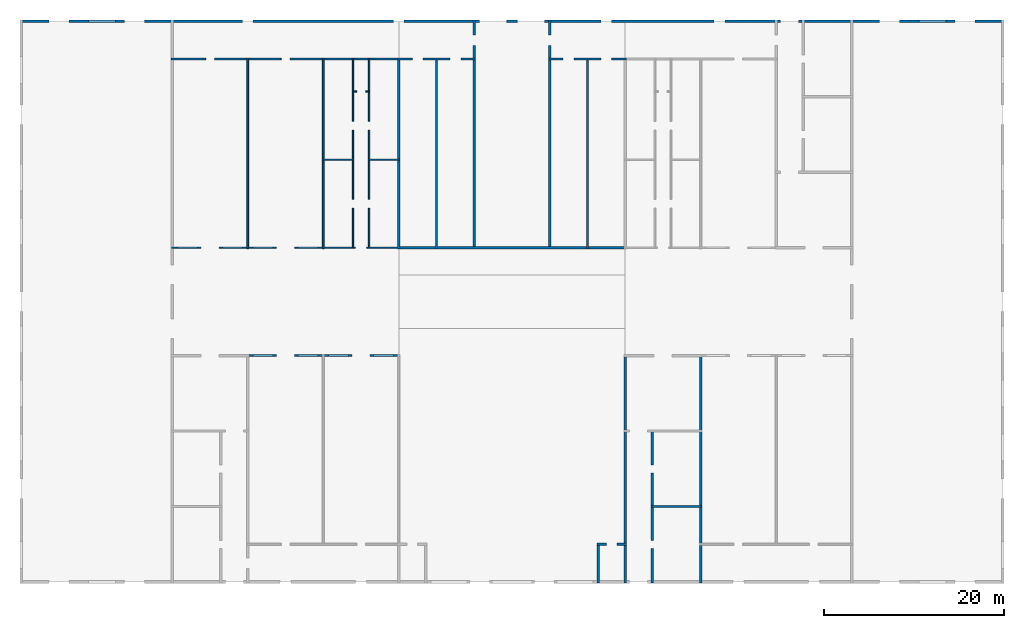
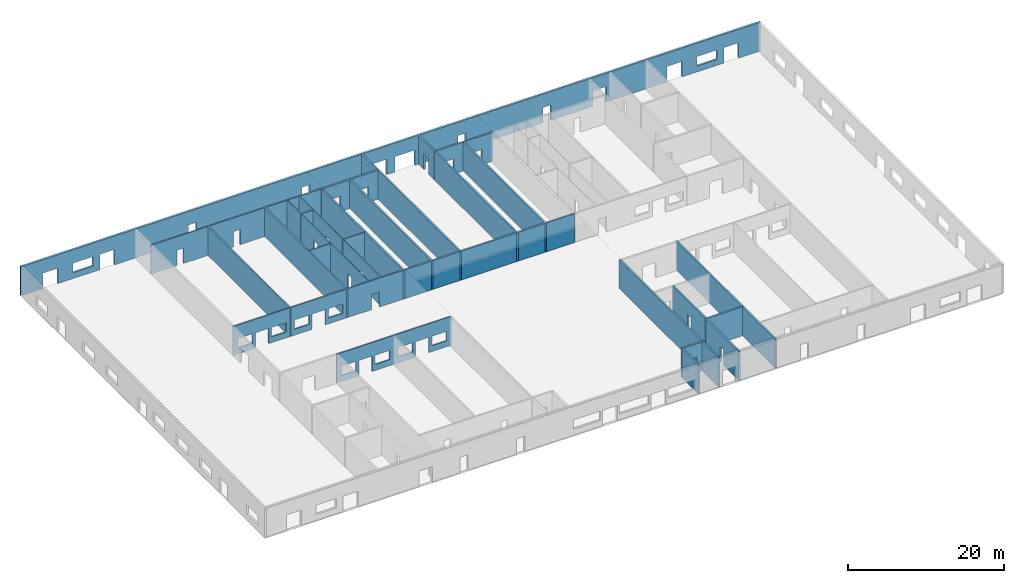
# One storey, part 2 of 3: 25 walls, 53 openings.
"""IFC4 building model written with IfcOpenShell, lengths in millimetres."""

from ifc_helpers import new_model, si_unit, frame, origin_with_axes, place, context, subcontext, project, spatial, indexed_curve, outline, extrude, type_object, element, save


model = new_model("IFC4")

# Units and contexts
model_context = context("Model", 3, precision=1e-05, world=origin_with_axes())
body_context = subcontext(model_context, "Body", "Model", "MODEL_VIEW")
ifc_project = project(units=[si_unit("AREAUNIT", "SQUARE_METRE"), si_unit("VOLUMEUNIT", "CUBIC_METRE"), si_unit("LENGTHUNIT", "METRE", prefix="MILLI")], contexts=[model_context])

# Site, building, storey
site = spatial("IfcSite", under=ifc_project, Name="PIN 00000000 (sample)")
building = spatial("IfcBuilding", under=site, Name="Sample Shopping Mall")
storey = spatial("IfcBuildingStorey", under=building, Name="Ground Floor", Elevation=0.0)

# Wall, openings
wall_type_1 = type_object("IfcWallType", Name="WT-300", PredefinedType="SOLIDWALL")
wall_1_placement = place(None, frame((5250.0, 77849.99999999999, 0.0), z_axis=(0.0, 0.0, 1.0), x_axis=(1.0, 0.0, 0.0)))
wall_1 = element("IfcWall", 1, at=wall_1_placement, inside=storey, type_object=wall_type_1, Name="W29", context=body_context, shape_type="SweptSolid", body=[
    extrude(outline(indexed_curve([(0.0, 0.0), (0.0, 300.0), (109499.99999999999, 300.0), (109499.99999999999, 0.0), (0.0, 0.0)], self_intersect=False)), origin_with_axes(), (0.0, 0.0, 1.0), 4500.0),
])
opening_1_placement = place(wall_1_placement, frame((3250.0, -99.9999999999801, 0.0), z_axis=(0.0, 0.0, 1.0), x_axis=(1.0, 0.0, 0.0)))
element("IfcOpeningElement", 2, at=opening_1_placement, cuts=wall_1, Name="D12-opening", context=body_context, shape_type="SweptSolid", body=[
    extrude(outline(indexed_curve([(0.0, 0.0), (0.0, 500.0), (1100.0, 500.0), (1100.0, 0.0), (0.0, 0.0)], self_intersect=False)), origin_with_axes(), (0.0, 0.0, 1.0), 2400.0),
])
opening_2_placement = place(wall_1_placement, frame((4350.000000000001, -99.9999999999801, 0.0), z_axis=(0.0, 0.0, 1.0), x_axis=(1.0, 0.0, 0.0)))
element("IfcOpeningElement", 3, at=opening_2_placement, cuts=wall_1, Name="-opening", context=body_context, shape_type="SweptSolid", body=[
    extrude(outline(indexed_curve([(0.0, 0.0), (0.0, 500.0), (1100.0, 500.0), (1100.0, 0.0), (0.0, 0.0)], self_intersect=False)), origin_with_axes(), (0.0, 0.0, 1.0), 2400.0),
])
opening_3_placement = place(wall_1_placement, frame((11649.999999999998, -99.9999999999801, 0.0), z_axis=(0.0, 0.0, 1.0), x_axis=(1.0, 0.0, 0.0)))
element("IfcOpeningElement", 4, at=opening_3_placement, cuts=wall_1, Name="D13-opening", context=body_context, shape_type="SweptSolid", body=[
    extrude(outline(indexed_curve([(0.0, 0.0), (0.0, 500.0), (1100.0, 500.0), (1100.0, 0.0), (0.0, 0.0)], self_intersect=False)), origin_with_axes(), (0.0, 0.0, 1.0), 2400.0),
])
opening_4_placement = place(wall_1_placement, frame((12750.0, -99.9999999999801, 0.0), z_axis=(0.0, 0.0, 1.0), x_axis=(1.0, 0.0, 0.0)))
element("IfcOpeningElement", 5, at=opening_4_placement, cuts=wall_1, Name="-opening", context=body_context, shape_type="SweptSolid", body=[
    extrude(outline(indexed_curve([(0.0, 0.0), (0.0, 500.0), (1100.0, 500.0), (1100.0, 0.0), (0.0, 0.0)], self_intersect=False)), origin_with_axes(), (0.0, 0.0, 1.0), 2400.0),
])
opening_5_placement = place(wall_1_placement, frame((95650.0, -99.9999999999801, 0.0), z_axis=(0.0, 0.0, 1.0), x_axis=(1.0, 0.0, 0.0)))
element("IfcOpeningElement", 6, at=opening_5_placement, cuts=wall_1, Name="D21-opening", context=body_context, shape_type="SweptSolid", body=[
    extrude(outline(indexed_curve([(0.0, 0.0), (0.0, 500.0), (1100.0, 500.0), (1100.0, 0.0), (0.0, 0.0)], self_intersect=False)), origin_with_axes(), (0.0, 0.0, 1.0), 2400.0),
])
opening_6_placement = place(wall_1_placement, frame((96750.0, -99.9999999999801, 0.0), z_axis=(0.0, 0.0, 1.0), x_axis=(1.0, 0.0, 0.0)))
element("IfcOpeningElement", 7, at=opening_6_placement, cuts=wall_1, Name="-opening", context=body_context, shape_type="SweptSolid", body=[
    extrude(outline(indexed_curve([(0.0, 0.0), (0.0, 500.0), (1100.0, 500.0), (1100.0, 0.0), (0.0, 0.0)], self_intersect=False)), origin_with_axes(), (0.0, 0.0, 1.0), 2400.0),
])
opening_7_placement = place(wall_1_placement, frame((104050.00000000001, -99.9999999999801, 0.0), z_axis=(0.0, 0.0, 1.0), x_axis=(1.0, 0.0, 0.0)))
element("IfcOpeningElement", 8, at=opening_7_placement, cuts=wall_1, Name="D22-opening", context=body_context, shape_type="SweptSolid", body=[
    extrude(outline(indexed_curve([(0.0, 0.0), (0.0, 500.0), (1100.0, 500.0), (1100.0, 0.0), (0.0, 0.0)], self_intersect=False)), origin_with_axes(), (0.0, 0.0, 1.0), 2400.0),
])
opening_8_placement = place(wall_1_placement, frame((105150.0, -99.9999999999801, 0.0), z_axis=(0.0, 0.0, 1.0), x_axis=(1.0, 0.0, 0.0)))
element("IfcOpeningElement", 9, at=opening_8_placement, cuts=wall_1, Name="-opening", context=body_context, shape_type="SweptSolid", body=[
    extrude(outline(indexed_curve([(0.0, 0.0), (0.0, 500.0), (1100.0, 500.0), (1100.0, 0.0), (0.0, 0.0)], self_intersect=False)), origin_with_axes(), (0.0, 0.0, 1.0), 2400.0),
])
opening_9_placement = place(wall_1_placement, frame((24750.0, -99.9999999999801, 0.0), z_axis=(0.0, 0.0, 1.0), x_axis=(1.0, 0.0, 0.0)))
element("IfcOpeningElement", 10, at=opening_9_placement, cuts=wall_1, Name="D27-opening", context=body_context, shape_type="SweptSolid", body=[
    extrude(outline(indexed_curve([(0.0, 0.0), (0.0, 500.0), (1200.0, 500.0), (1200.0, 0.0), (0.0, 0.0)], self_intersect=False)), origin_with_axes(), (0.0, 0.0, 1.0), 2400.0),
])
opening_10_placement = place(wall_1_placement, frame((41549.99999999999, -99.9999999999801, 0.0), z_axis=(0.0, 0.0, 1.0), x_axis=(1.0, 0.0, 0.0)))
element("IfcOpeningElement", 11, at=opening_10_placement, cuts=wall_1, Name="D28-opening", context=body_context, shape_type="SweptSolid", body=[
    extrude(outline(indexed_curve([(0.0, 0.0), (0.0, 500.0), (1200.0, 500.0), (1200.0, 0.0), (0.0, 0.0)], self_intersect=False)), origin_with_axes(), (0.0, 0.0, 1.0), 2400.0),
])
opening_11_placement = place(wall_1_placement, frame((64650.00000000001, -99.9999999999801, 0.0), z_axis=(0.0, 0.0, 1.0), x_axis=(1.0, 0.0, 0.0)))
element("IfcOpeningElement", 12, at=opening_11_placement, cuts=wall_1, Name="D29-opening", context=body_context, shape_type="SweptSolid", body=[
    extrude(outline(indexed_curve([(0.0, 0.0), (0.0, 500.0), (1200.0, 500.0), (1200.0, 0.0), (0.0, 0.0)], self_intersect=False)), origin_with_axes(), (0.0, 0.0, 1.0), 2400.0),
])
opening_12_placement = place(wall_1_placement, frame((77250.0, -99.9999999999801, 0.0), z_axis=(0.0, 0.0, 1.0), x_axis=(1.0, 0.0, 0.0)))
element("IfcOpeningElement", 13, at=opening_12_placement, cuts=wall_1, Name="D30-opening", context=body_context, shape_type="SweptSolid", body=[
    extrude(outline(indexed_curve([(0.0, 0.0), (0.0, 500.0), (1200.0, 500.0), (1200.0, 0.0), (0.0, 0.0)], self_intersect=False)), origin_with_axes(), (0.0, 0.0, 1.0), 2400.0),
])
opening_13_placement = place(wall_1_placement, frame((51150.0, -99.9999999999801, 0.0), z_axis=(0.0, 0.0, 1.0), x_axis=(1.0, 0.0, 0.0)))
element("IfcOpeningElement", 14, at=opening_13_placement, cuts=wall_1, Name="D62-opening", context=body_context, shape_type="SweptSolid", body=[
    extrude(outline(indexed_curve([(0.0, 0.0), (0.0, 500.0), (1500.0, 500.0), (1500.0, 0.0), (0.0, 0.0)], self_intersect=False)), origin_with_axes(), (0.0, 0.0, 1.0), 2400.0),
])
opening_14_placement = place(wall_1_placement, frame((52650.0, -99.9999999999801, 0.0), z_axis=(0.0, 0.0, 1.0), x_axis=(1.0, 0.0, 0.0)))
element("IfcOpeningElement", 15, at=opening_14_placement, cuts=wall_1, Name="-opening", context=body_context, shape_type="SweptSolid", body=[
    extrude(outline(indexed_curve([(0.0, 0.0), (0.0, 500.0), (1500.0, 500.0), (1500.0, 0.0), (0.0, 0.0)], self_intersect=False)), origin_with_axes(), (0.0, 0.0, 1.0), 2400.0),
])
opening_15_placement = place(wall_1_placement, frame((55350.0, -99.9999999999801, 0.0), z_axis=(0.0, 0.0, 1.0), x_axis=(1.0, 0.0, 0.0)))
element("IfcOpeningElement", 16, at=opening_15_placement, cuts=wall_1, Name="D63-opening", context=body_context, shape_type="SweptSolid", body=[
    extrude(outline(indexed_curve([(0.0, 0.0), (0.0, 500.0), (1500.0, 500.0), (1500.0, 0.0), (0.0, 0.0)], self_intersect=False)), origin_with_axes(), (0.0, 0.0, 1.0), 2400.0),
])
opening_16_placement = place(wall_1_placement, frame((56850.0, -99.9999999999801, 0.0), z_axis=(0.0, 0.0, 1.0), x_axis=(1.0, 0.0, 0.0)))
element("IfcOpeningElement", 17, at=opening_16_placement, cuts=wall_1, Name="-opening", context=body_context, shape_type="SweptSolid", body=[
    extrude(outline(indexed_curve([(0.0, 0.0), (0.0, 500.0), (1500.0, 500.0), (1500.0, 0.0), (0.0, 0.0)], self_intersect=False)), origin_with_axes(), (0.0, 0.0, 1.0), 2400.0),
])
opening_17_placement = place(wall_1_placement, frame((84650.0, -99.9999999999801, 0.0), z_axis=(0.0, 0.0, 1.0), x_axis=(1.0, 0.0, 0.0)))
element("IfcOpeningElement", 18, at=opening_17_placement, cuts=wall_1, Name="D78-opening", context=body_context, shape_type="SweptSolid", body=[
    extrude(outline(indexed_curve([(0.0, 0.0), (0.0, 500.0), (1000.0, 500.0), (1000.0, 0.0), (0.0, 0.0)], self_intersect=False)), origin_with_axes(), (0.0, 0.0, 1.0), 2400.0),
])
opening_18_placement = place(wall_1_placement, frame((85650.0, -99.9999999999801, 0.0), z_axis=(0.0, 0.0, 1.0), x_axis=(1.0, 0.0, 0.0)))
element("IfcOpeningElement", 19, at=opening_18_placement, cuts=wall_1, Name="-opening", context=body_context, shape_type="SweptSolid", body=[
    extrude(outline(indexed_curve([(0.0, 0.0), (0.0, 500.0), (1000.0, 500.0), (1000.0, 0.0), (0.0, 0.0)], self_intersect=False)), origin_with_axes(), (0.0, 0.0, 1.0), 2400.0),
])
opening_19_placement = place(wall_1_placement, frame((7650.0, -99.9999999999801, 900.0), z_axis=(0.0, 0.0, 1.0), x_axis=(1.0, 0.0, 0.0)))
element("IfcOpeningElement", 20, at=opening_19_placement, cuts=wall_1, Name="-opening", context=body_context, shape_type="SweptSolid", body=[
    extrude(outline(indexed_curve([(0.0, 0.0), (0.0, 500.0), (3000.0, 500.0), (3000.0, 0.0), (0.0, 0.0)], self_intersect=False)), origin_with_axes(), (0.0, 0.0, 1.0), 1500.0),
])
opening_20_placement = place(wall_1_placement, frame((100050.00000000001, -99.9999999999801, 900.0), z_axis=(0.0, 0.0, 1.0), x_axis=(1.0, 0.0, 0.0)))
element("IfcOpeningElement", 21, at=opening_20_placement, cuts=wall_1, Name="-opening", context=body_context, shape_type="SweptSolid", body=[
    extrude(outline(indexed_curve([(0.0, 0.0), (0.0, 500.0), (3000.0, 500.0), (3000.0, 0.0), (0.0, 0.0)], self_intersect=False)), origin_with_axes(), (0.0, 0.0, 1.0), 1500.0),
])

wall_type_2 = type_object("IfcWallType", Name="WT-200", PredefinedType="SOLIDWALL")
wall_2_placement = place(None, frame((30500.0, 40699.99999999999, 0.0), z_axis=(0.0, 0.0, 1.0), x_axis=(1.0, 0.0, 0.0)))
wall_2 = element("IfcWall", 22, at=wall_2_placement, inside=storey, type_object=wall_type_2, Name="W10", context=body_context, shape_type="SweptSolid", body=[
    extrude(outline(indexed_curve([(0.0, 0.0), (0.0, 200.0), (16999.999999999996, 200.0), (16999.999999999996, 0.0), (0.0, 0.0)], self_intersect=False)), origin_with_axes(), (0.0, 0.0, 1.0), 4500.0),
])
opening_21_placement = place(wall_2_placement, frame((3299.9999999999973, -100.00000000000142, 0.0), z_axis=(0.0, 0.0, 1.0), x_axis=(1.0, 0.0, 0.0)))
element("IfcOpeningElement", 23, at=opening_21_placement, cuts=wall_2, Name="D37-opening", context=body_context, shape_type="SweptSolid", body=[
    extrude(outline(indexed_curve([(0.0, 0.0), (0.0, 400.0), (1000.0, 400.0), (1000.0, 0.0), (0.0, 0.0)], self_intersect=False)), origin_with_axes(), (0.0, 0.0, 1.0), 2400.0),
])
opening_22_placement = place(wall_2_placement, frame((4300.000000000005, -100.00000000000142, 0.0), z_axis=(0.0, 0.0, 1.0), x_axis=(1.0, 0.0, 0.0)))
element("IfcOpeningElement", 24, at=opening_22_placement, cuts=wall_2, Name="-opening", context=body_context, shape_type="SweptSolid", body=[
    extrude(outline(indexed_curve([(0.0, 0.0), (0.0, 400.0), (1000.0, 400.0), (1000.0, 0.0), (0.0, 0.0)], self_intersect=False)), origin_with_axes(), (0.0, 0.0, 1.0), 2400.0),
])
opening_23_placement = place(wall_2_placement, frame((11700.000000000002, -100.00000000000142, 0.0), z_axis=(0.0, 0.0, 1.0), x_axis=(1.0, 0.0, 0.0)))
element("IfcOpeningElement", 25, at=opening_23_placement, cuts=wall_2, Name="D39-opening", context=body_context, shape_type="SweptSolid", body=[
    extrude(outline(indexed_curve([(0.0, 0.0), (0.0, 400.0), (1000.0, 400.0), (1000.0, 0.0), (0.0, 0.0)], self_intersect=False)), origin_with_axes(), (0.0, 0.0, 1.0), 2400.0),
])
opening_24_placement = place(wall_2_placement, frame((12700.000000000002, -100.00000000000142, 0.0), z_axis=(0.0, 0.0, 1.0), x_axis=(1.0, 0.0, 0.0)))
element("IfcOpeningElement", 26, at=opening_24_placement, cuts=wall_2, Name="-opening", context=body_context, shape_type="SweptSolid", body=[
    extrude(outline(indexed_curve([(0.0, 0.0), (0.0, 400.0), (1000.0, 400.0), (1000.0, 0.0), (0.0, 0.0)], self_intersect=False)), origin_with_axes(), (0.0, 0.0, 1.0), 2400.0),
])
opening_25_placement = place(wall_2_placement, frame((700.0000000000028, -100.00000000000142, 900.0), z_axis=(0.0, 0.0, 1.0), x_axis=(1.0, 0.0, 0.0)))
element("IfcOpeningElement", 27, at=opening_25_placement, cuts=wall_2, Name="-opening", context=body_context, shape_type="SweptSolid", body=[
    extrude(outline(indexed_curve([(0.0, 0.0), (0.0, 400.0), (2200.0, 400.0), (2200.0, 0.0), (0.0, 0.0)], self_intersect=False)), origin_with_axes(), (0.0, 0.0, 1.0), 1500.0),
])
opening_26_placement = place(wall_2_placement, frame((5700.000000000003, -100.00000000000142, 900.0), z_axis=(0.0, 0.0, 1.0), x_axis=(1.0, 0.0, 0.0)))
element("IfcOpeningElement", 28, at=opening_26_placement, cuts=wall_2, Name="-opening", context=body_context, shape_type="SweptSolid", body=[
    extrude(outline(indexed_curve([(0.0, 0.0), (0.0, 400.0), (2200.0, 400.0), (2200.0, 0.0), (0.0, 0.0)], self_intersect=False)), origin_with_axes(), (0.0, 0.0, 1.0), 1500.0),
])
opening_27_placement = place(wall_2_placement, frame((9100.000000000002, -100.00000000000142, 900.0), z_axis=(0.0, 0.0, 1.0), x_axis=(1.0, 0.0, 0.0)))
element("IfcOpeningElement", 29, at=opening_27_placement, cuts=wall_2, Name="-opening", context=body_context, shape_type="SweptSolid", body=[
    extrude(outline(indexed_curve([(0.0, 0.0), (0.0, 400.0), (2200.0, 400.0), (2200.0, 0.0), (0.0, 0.0)], self_intersect=False)), origin_with_axes(), (0.0, 0.0, 1.0), 1500.0),
])
opening_28_placement = place(wall_2_placement, frame((14100.000000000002, -100.00000000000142, 900.0), z_axis=(0.0, 0.0, 1.0), x_axis=(1.0, 0.0, 0.0)))
element("IfcOpeningElement", 30, at=opening_28_placement, cuts=wall_2, Name="-opening", context=body_context, shape_type="SweptSolid", body=[
    extrude(outline(indexed_curve([(0.0, 0.0), (0.0, 400.0), (2200.0, 400.0), (2200.0, 0.0), (0.0, 0.0)], self_intersect=False)), origin_with_axes(), (0.0, 0.0, 1.0), 1500.0),
])

wall_3_placement = place(None, frame((22099.999999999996, 52699.99999999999, 0.0), z_axis=(0.0, 0.0, 1.0), x_axis=(1.0, 0.0, 0.0)))
wall_3 = element("IfcWall", 31, at=wall_3_placement, inside=storey, type_object=wall_type_2, Name="W13", context=body_context, shape_type="SweptSolid", body=[
    extrude(outline(indexed_curve([(0.0, 0.0), (0.0, 200.0), (25399.999999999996, 200.0), (25399.999999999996, 0.0), (0.0, 0.0)], self_intersect=False)), origin_with_axes(), (0.0, 0.0, 1.0), 4500.0),
])
opening_29_placement = place(wall_3_placement, frame((3300.0000000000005, -100.00000000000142, 0.0), z_axis=(0.0, 0.0, 1.0), x_axis=(1.0, 0.0, 0.0)))
element("IfcOpeningElement", 32, at=opening_29_placement, cuts=wall_3, Name="D50-opening", context=body_context, shape_type="SweptSolid", body=[
    extrude(outline(indexed_curve([(0.0, 0.0), (0.0, 400.0), (1000.0, 400.0), (1000.0, 0.0), (0.0, 0.0)], self_intersect=False)), origin_with_axes(), (0.0, 0.0, 1.0), 2400.0),
])
opening_30_placement = place(wall_3_placement, frame((4300.000000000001, -100.00000000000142, 0.0), z_axis=(0.0, 0.0, 1.0), x_axis=(1.0, 0.0, 0.0)))
element("IfcOpeningElement", 33, at=opening_30_placement, cuts=wall_3, Name="-opening", context=body_context, shape_type="SweptSolid", body=[
    extrude(outline(indexed_curve([(0.0, 0.0), (0.0, 400.0), (1000.0, 400.0), (1000.0, 0.0), (0.0, 0.0)], self_intersect=False)), origin_with_axes(), (0.0, 0.0, 1.0), 2400.0),
])
opening_31_placement = place(wall_3_placement, frame((11699.999999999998, -100.00000000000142, 0.0), z_axis=(0.0, 0.0, 1.0), x_axis=(1.0, 0.0, 0.0)))
element("IfcOpeningElement", 34, at=opening_31_placement, cuts=wall_3, Name="D52-opening", context=body_context, shape_type="SweptSolid", body=[
    extrude(outline(indexed_curve([(0.0, 0.0), (0.0, 400.0), (1000.0, 400.0), (1000.0, 0.0), (0.0, 0.0)], self_intersect=False)), origin_with_axes(), (0.0, 0.0, 1.0), 2400.0),
])
opening_32_placement = place(wall_3_placement, frame((12700.000000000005, -100.00000000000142, 0.0), z_axis=(0.0, 0.0, 1.0), x_axis=(1.0, 0.0, 0.0)))
element("IfcOpeningElement", 35, at=opening_32_placement, cuts=wall_3, Name="-opening", context=body_context, shape_type="SweptSolid", body=[
    extrude(outline(indexed_curve([(0.0, 0.0), (0.0, 400.0), (1000.0, 400.0), (1000.0, 0.0), (0.0, 0.0)], self_intersect=False)), origin_with_axes(), (0.0, 0.0, 1.0), 2400.0),
])
opening_33_placement = place(wall_3_placement, frame((20499.999999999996, -100.00000000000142, 0.0), z_axis=(0.0, 0.0, 1.0), x_axis=(1.0, 0.0, 0.0)))
element("IfcOpeningElement", 36, at=opening_33_placement, cuts=wall_3, Name="D54-opening", context=body_context, shape_type="SweptSolid", body=[
    extrude(outline(indexed_curve([(0.0, 0.0), (0.0, 400.0), (1200.0, 400.0), (1200.0, 0.0), (0.0, 0.0)], self_intersect=False)), origin_with_axes(), (0.0, 0.0, 1.0), 2400.0),
])
opening_34_placement = place(wall_3_placement, frame((700.0000000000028, -100.00000000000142, 900.0), z_axis=(0.0, 0.0, 1.0), x_axis=(1.0, 0.0, 0.0)))
element("IfcOpeningElement", 37, at=opening_34_placement, cuts=wall_3, Name="-opening", context=body_context, shape_type="SweptSolid", body=[
    extrude(outline(indexed_curve([(0.0, 0.0), (0.0, 400.0), (2200.0, 400.0), (2200.0, 0.0), (0.0, 0.0)], self_intersect=False)), origin_with_axes(), (0.0, 0.0, 1.0), 1500.0),
])
opening_35_placement = place(wall_3_placement, frame((5699.999999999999, -100.00000000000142, 900.0), z_axis=(0.0, 0.0, 1.0), x_axis=(1.0, 0.0, 0.0)))
element("IfcOpeningElement", 38, at=opening_35_placement, cuts=wall_3, Name="-opening", context=body_context, shape_type="SweptSolid", body=[
    extrude(outline(indexed_curve([(0.0, 0.0), (0.0, 400.0), (2200.0, 400.0), (2200.0, 0.0), (0.0, 0.0)], self_intersect=False)), origin_with_axes(), (0.0, 0.0, 1.0), 1500.0),
])
opening_36_placement = place(wall_3_placement, frame((9100.000000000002, -100.00000000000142, 900.0), z_axis=(0.0, 0.0, 1.0), x_axis=(1.0, 0.0, 0.0)))
element("IfcOpeningElement", 39, at=opening_36_placement, cuts=wall_3, Name="-opening", context=body_context, shape_type="SweptSolid", body=[
    extrude(outline(indexed_curve([(0.0, 0.0), (0.0, 400.0), (2200.0, 400.0), (2200.0, 0.0), (0.0, 0.0)], self_intersect=False)), origin_with_axes(), (0.0, 0.0, 1.0), 1500.0),
])
opening_37_placement = place(wall_3_placement, frame((14100.000000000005, -100.00000000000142, 900.0), z_axis=(0.0, 0.0, 1.0), x_axis=(1.0, 0.0, 0.0)))
element("IfcOpeningElement", 40, at=opening_37_placement, cuts=wall_3, Name="-opening", context=body_context, shape_type="SweptSolid", body=[
    extrude(outline(indexed_curve([(0.0, 0.0), (0.0, 400.0), (2200.0, 400.0), (2200.0, 0.0), (0.0, 0.0)], self_intersect=False)), origin_with_axes(), (0.0, 0.0, 1.0), 1500.0),
])

wall_4_placement = place(None, frame((22099.999999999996, 73700.0, 0.0), z_axis=(0.0, 0.0, 1.0), x_axis=(1.0, 0.0, 0.0)))
wall_4 = element("IfcWall", 41, at=wall_4_placement, inside=storey, type_object=wall_type_2, Name="W25", context=body_context, shape_type="SweptSolid", body=[
    extrude(outline(indexed_curve([(0.0, 0.0), (0.0, 200.0), (25399.999999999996, 200.0), (25399.999999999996, 0.0), (0.0, 0.0)], self_intersect=False)), origin_with_axes(), (0.0, 0.0, 1.0), 4500.0),
])
opening_38_placement = place(wall_4_placement, frame((3800.0000000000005, -99.99999999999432, 0.0), z_axis=(0.0, 0.0, 1.0), x_axis=(1.0, 0.0, 0.0)))
element("IfcOpeningElement", 42, at=opening_38_placement, cuts=wall_4, Name="-opening", context=body_context, shape_type="SweptSolid", body=[
    extrude(outline(indexed_curve([(0.0, 0.0), (0.0, 400.0), (1000.0, 400.0), (1000.0, 0.0), (0.0, 0.0)], self_intersect=False)), origin_with_axes(), (0.0, 0.0, 1.0), 2400.0),
])
opening_39_placement = place(wall_4_placement, frame((12200.000000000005, -99.99999999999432, 0.0), z_axis=(0.0, 0.0, 1.0), x_axis=(1.0, 0.0, 0.0)))
element("IfcOpeningElement", 43, at=opening_39_placement, cuts=wall_4, Name="-opening", context=body_context, shape_type="SweptSolid", body=[
    extrude(outline(indexed_curve([(0.0, 0.0), (0.0, 400.0), (1000.0, 400.0), (1000.0, 0.0), (0.0, 0.0)], self_intersect=False)), origin_with_axes(), (0.0, 0.0, 1.0), 2400.0),
])

# Walls
for number, where, z_axis, x_axis, name in (
    (44, (30700.000000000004, 52699.99999999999, 0.0), (0.0, 0.0, 1.0), (6.123233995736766e-17, 1.0, 0.0), "W34"),
    (45, (39100.0, 52699.99999999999, 0.0), (0.0, 0.0, 1.0), (6.123233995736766e-17, 1.0, 0.0), "W36"),
):
    element("IfcWall", number, at=place(None, frame(where, z_axis=z_axis, x_axis=x_axis)), inside=storey, type_object=wall_type_2, Name=name, context=body_context, shape_type="SweptSolid", body=[
        extrude(outline(indexed_curve([(0.0, 0.0), (0.0, 200.0), (21200.0, 200.0), (21200.0, 0.0), (0.0, 0.0)], self_intersect=False)), origin_with_axes(), (0.0, 0.0, 1.0), 4500.0),
    ])

# Wall, opening
wall_type_3 = type_object("IfcWallType", Name="WT-250", PredefinedType="SOLIDWALL")
wall_5_placement = place(None, frame((69475.0, 19675.0, 0.0), z_axis=(0.0, 0.0, 1.0), x_axis=(1.0, 0.0, 0.0)))
wall_5 = element("IfcWall", 46, at=wall_5_placement, inside=storey, type_object=wall_type_3, Name="W3", context=body_context, shape_type="SweptSolid", body=[
    extrude(outline(indexed_curve([(0.0, 0.0), (0.0, 250.0), (3250.0, 250.0), (3250.0, 0.0), (0.0, 0.0)], self_intersect=False)), origin_with_axes(), (0.0, 0.0, 1.0), 4500.0),
])
opening_40_placement = place(wall_5_placement, frame((1024.9999999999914, -100.00000000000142, 0.0), z_axis=(0.0, 0.0, 1.0), x_axis=(1.0, 0.0, 0.0)))
element("IfcOpeningElement", 47, at=opening_40_placement, cuts=wall_5, Name="D02-opening", context=body_context, shape_type="SweptSolid", body=[
    extrude(outline(indexed_curve([(0.0, 0.0), (0.0, 450.0), (1200.0, 450.0), (1200.0, 0.0), (0.0, 0.0)], self_intersect=False)), origin_with_axes(), (0.0, 0.0, 1.0), 2400.0),
])

# Walls
wall_6_placement = place(None, frame((75475.0, 23875.0, 0.0), z_axis=(0.0, 0.0, 1.0), x_axis=(1.0, 0.0, 0.0)))
element("IfcWall", 48, at=wall_6_placement, inside=storey, type_object=wall_type_3, Name="W6", context=body_context, shape_type="SweptSolid", body=[
    extrude(outline(indexed_curve([(0.0, 0.0), (0.0, 250.0), (5650.0000000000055, 250.0), (5650.0000000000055, 0.0), (0.0, 0.0)], self_intersect=False)), origin_with_axes(), (0.0, 0.0, 1.0), 4500.0),
])
wall_7_placement = place(None, frame((47275.0, 52674.99999999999, 0.0), z_axis=(0.0, 0.0, 1.0), x_axis=(1.0, 0.0, 0.0)))
element("IfcWall", 49, at=wall_7_placement, inside=storey, type_object=wall_type_3, Name="W14", context=body_context, shape_type="SweptSolid", body=[
    extrude(outline(indexed_curve([(0.0, 0.0), (0.0, 250.0), (25449.999999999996, 250.0), (25449.999999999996, 0.0), (0.0, 0.0)], self_intersect=False)), origin_with_axes(), (0.0, 0.0, 1.0), 4500.0),
])

# Wall, openings
wall_8_placement = place(None, frame((47275.0, 73675.0, 0.0), z_axis=(0.0, 0.0, 1.0), x_axis=(1.0, 0.0, 0.0)))
wall_8 = element("IfcWall", 50, at=wall_8_placement, inside=storey, type_object=wall_type_3, Name="W26", context=body_context, shape_type="SweptSolid", body=[
    extrude(outline(indexed_curve([(0.0, 0.0), (0.0, 250.0), (8649.999999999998, 250.0), (8649.999999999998, 0.0), (0.0, 0.0)], self_intersect=False)), origin_with_axes(), (0.0, 0.0, 1.0), 4500.0),
])
opening_41_placement = place(wall_8_placement, frame((1625.0, -99.99999999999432, 0.0), z_axis=(0.0, 0.0, 1.0), x_axis=(1.0, 0.0, 0.0)))
element("IfcOpeningElement", 51, at=opening_41_placement, cuts=wall_8, Name="-opening", context=body_context, shape_type="SweptSolid", body=[
    extrude(outline(indexed_curve([(0.0, 0.0), (0.0, 450.0), (1200.0, 450.0), (1200.0, 0.0), (0.0, 0.0)], self_intersect=False)), origin_with_axes(), (0.0, 0.0, 1.0), 2400.0),
])
opening_42_placement = place(wall_8_placement, frame((5825.000000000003, -99.99999999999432, 0.0), z_axis=(0.0, 0.0, 1.0), x_axis=(1.0, 0.0, 0.0)))
element("IfcOpeningElement", 52, at=opening_42_placement, cuts=wall_8, Name="-opening", context=body_context, shape_type="SweptSolid", body=[
    extrude(outline(indexed_curve([(0.0, 0.0), (0.0, 450.0), (1200.0, 450.0), (1200.0, 0.0), (0.0, 0.0)], self_intersect=False)), origin_with_axes(), (0.0, 0.0, 1.0), 2400.0),
])

wall_9_placement = place(None, frame((64075.0, 73675.0, 0.0), z_axis=(0.0, 0.0, 1.0), x_axis=(1.0, 0.0, 0.0)))
wall_9 = element("IfcWall", 53, at=wall_9_placement, inside=storey, type_object=wall_type_3, Name="W27", context=body_context, shape_type="SweptSolid", body=[
    extrude(outline(indexed_curve([(0.0, 0.0), (0.0, 250.0), (8649.99999999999, 250.0), (8649.99999999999, 0.0), (0.0, 0.0)], self_intersect=False)), origin_with_axes(), (0.0, 0.0, 1.0), 4500.0),
])
opening_43_placement = place(wall_9_placement, frame((1625.0, -99.99999999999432, 0.0), z_axis=(0.0, 0.0, 1.0), x_axis=(1.0, 0.0, 0.0)))
element("IfcOpeningElement", 54, at=opening_43_placement, cuts=wall_9, Name="-opening", context=body_context, shape_type="SweptSolid", body=[
    extrude(outline(indexed_curve([(0.0, 0.0), (0.0, 450.0), (1200.0, 450.0), (1200.0, 0.0), (0.0, 0.0)], self_intersect=False)), origin_with_axes(), (0.0, 0.0, 1.0), 2400.0),
])
opening_44_placement = place(wall_9_placement, frame((5825.000000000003, -99.99999999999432, 0.0), z_axis=(0.0, 0.0, 1.0), x_axis=(1.0, 0.0, 0.0)))
element("IfcOpeningElement", 55, at=opening_44_placement, cuts=wall_9, Name="-opening", context=body_context, shape_type="SweptSolid", body=[
    extrude(outline(indexed_curve([(0.0, 0.0), (0.0, 450.0), (1200.0, 450.0), (1200.0, 0.0), (0.0, 0.0)], self_intersect=False)), origin_with_axes(), (0.0, 0.0, 1.0), 2400.0),
])

# Walls
for number, where, z_axis, x_axis, name in (
    (56, (47525.0, 52674.99999999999, 0.0), (0.0, 0.0, 1.0), (6.123233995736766e-17, 1.0, 0.0), "W41"),
    (57, (51725.0, 52674.99999999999, 0.0), (0.0, 0.0, 1.0), (6.123233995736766e-17, 1.0, 0.0), "W43"),
):
    element("IfcWall", number, at=place(None, frame(where, z_axis=z_axis, x_axis=x_axis)), inside=storey, type_object=wall_type_3, Name=name, context=body_context, shape_type="SweptSolid", body=[
        extrude(outline(indexed_curve([(0.0, 0.0), (0.0, 250.0), (21250.0, 250.0), (21250.0, 0.0), (0.0, 0.0)], self_intersect=False)), origin_with_axes(), (0.0, 0.0, 1.0), 4500.0),
    ])

# Wall, opening
wall_10_placement = place(None, frame((55924.99999999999, 52674.99999999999, 0.0), z_axis=(0.0, 0.0, 1.0), x_axis=(6.123233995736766e-17, 1.0, 0.0)))
wall_10 = element("IfcWall", 58, at=wall_10_placement, inside=storey, type_object=wall_type_3, Name="W44", context=body_context, shape_type="SweptSolid", body=[
    extrude(outline(indexed_curve([(0.0, 0.0), (0.0, 250.0), (25450.000000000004, 250.0), (25450.000000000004, 0.0), (0.0, 0.0)], self_intersect=False)), origin_with_axes(), (0.0, 0.0, 1.0), 4500.0),
])
opening_45_placement = place(wall_10_placement, frame((22625.0, -99.99999999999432, 0.0), z_axis=(0.0, 0.0, 1.0), x_axis=(1.0, 0.0, 0.0)))
element("IfcOpeningElement", 59, at=opening_45_placement, cuts=wall_10, Name="-opening", context=body_context, shape_type="SweptSolid", body=[
    extrude(outline(indexed_curve([(0.0, 0.0), (0.0, 450.0), (1200.0, 450.0), (1200.0, 0.0), (0.0, 0.0)], self_intersect=False)), origin_with_axes(), (0.0, 0.0, 1.0), 2400.0),
])

wall_11_placement = place(None, frame((64325.0, 52674.99999999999, 0.0), z_axis=(0.0, 0.0, 1.0), x_axis=(6.123233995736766e-17, 1.0, 0.0)))
wall_11 = element("IfcWall", 60, at=wall_11_placement, inside=storey, type_object=wall_type_3, Name="W45", context=body_context, shape_type="SweptSolid", body=[
    extrude(outline(indexed_curve([(0.0, 0.0), (0.0, 250.0), (25450.000000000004, 250.0), (25450.000000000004, 0.0), (0.0, 0.0)], self_intersect=False)), origin_with_axes(), (0.0, 0.0, 1.0), 4500.0),
])
opening_46_placement = place(wall_11_placement, frame((22624.999999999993, -99.99999999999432, 0.0), z_axis=(0.0, 0.0, 1.0), x_axis=(1.0, 0.0, 0.0)))
element("IfcOpeningElement", 61, at=opening_46_placement, cuts=wall_11, Name="-opening", context=body_context, shape_type="SweptSolid", body=[
    extrude(outline(indexed_curve([(0.0, 0.0), (0.0, 450.0), (1200.0, 450.0), (1200.0, 0.0), (0.0, 0.0)], self_intersect=False)), origin_with_axes(), (0.0, 0.0, 1.0), 2400.0),
])

# Walls
wall_12_placement = place(None, frame((68525.0, 52674.99999999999, 0.0), z_axis=(0.0, 0.0, 1.0), x_axis=(6.123233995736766e-17, 1.0, 0.0)))
element("IfcWall", 62, at=wall_12_placement, inside=storey, type_object=wall_type_3, Name="W46", context=body_context, shape_type="SweptSolid", body=[
    extrude(outline(indexed_curve([(0.0, 0.0), (0.0, 250.0), (21250.0, 250.0), (21250.0, 0.0), (0.0, 0.0)], self_intersect=False)), origin_with_axes(), (0.0, 0.0, 1.0), 4500.0),
])
wall_13_placement = place(None, frame((69725.0, 15475.0, 0.0), z_axis=(0.0, 0.0, 1.0), x_axis=(6.123233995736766e-17, 1.0, 0.0)))
element("IfcWall", 63, at=wall_13_placement, inside=storey, type_object=wall_type_3, Name="W47", context=body_context, shape_type="SweptSolid", body=[
    extrude(outline(indexed_curve([(0.0, 0.0), (0.0, 250.0), (4450.000000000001, 250.0), (4450.000000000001, 0.0), (0.0, 0.0)], self_intersect=False)), origin_with_axes(), (0.0, 0.0, 1.0), 4500.0),
])
wall_14_placement = place(None, frame((72725.0, 15475.0, 0.0), z_axis=(0.0, 0.0, 1.0), x_axis=(6.123233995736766e-17, 1.0, 0.0)))
element("IfcWall", 64, at=wall_14_placement, inside=storey, type_object=wall_type_3, Name="W48", context=body_context, shape_type="SweptSolid", body=[
    extrude(outline(indexed_curve([(0.0, 0.0), (0.0, 250.0), (25449.999999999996, 250.0), (25449.999999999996, 0.0), (0.0, 0.0)], self_intersect=False)), origin_with_axes(), (0.0, 0.0, 1.0), 4500.0),
])

# Wall, openings
wall_15_placement = place(None, frame((75725.0, 15475.0, 0.0), z_axis=(0.0, 0.0, 1.0), x_axis=(6.123233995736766e-17, 1.0, 0.0)))
wall_15 = element("IfcWall", 65, at=wall_15_placement, inside=storey, type_object=wall_type_3, Name="W50", context=body_context, shape_type="SweptSolid", body=[
    extrude(outline(indexed_curve([(0.0, 0.0), (0.0, 250.0), (17049.999999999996, 250.0), (17049.999999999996, 0.0), (0.0, 0.0)], self_intersect=False)), origin_with_axes(), (0.0, 0.0, 1.0), 4500.0),
])
opening_47_placement = place(wall_15_placement, frame((12274.999999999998, -99.9999999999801, 0.0), z_axis=(0.0, 0.0, 1.0), x_axis=(1.0, 0.0, 0.0)))
element("IfcOpeningElement", 66, at=opening_47_placement, cuts=wall_15, Name="-opening", context=body_context, shape_type="SweptSolid", body=[
    extrude(outline(indexed_curve([(0.0, 0.0), (0.0, 450.0), (900.0, 450.0), (900.0, 0.0), (0.0, 0.0)], self_intersect=False)), origin_with_axes(), (0.0, 0.0, 1.0), 2400.0),
])
opening_48_placement = place(wall_15_placement, frame((3875.0, -99.9999999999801, 0.0), z_axis=(0.0, 0.0, 1.0), x_axis=(1.0, 0.0, 0.0)))
element("IfcOpeningElement", 67, at=opening_48_placement, cuts=wall_15, Name="-opening", context=body_context, shape_type="SweptSolid", body=[
    extrude(outline(indexed_curve([(0.0, 0.0), (0.0, 450.0), (900.0, 450.0), (900.0, 0.0), (0.0, 0.0)], self_intersect=False)), origin_with_axes(), (0.0, 0.0, 1.0), 2400.0),
])

# Walls
wall_16_placement = place(None, frame((81125.0, 15475.0, 0.0), z_axis=(0.0, 0.0, 1.0), x_axis=(6.123233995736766e-17, 1.0, 0.0)))
element("IfcWall", 68, at=wall_16_placement, inside=storey, type_object=wall_type_3, Name="W53", context=body_context, shape_type="SweptSolid", body=[
    extrude(outline(indexed_curve([(0.0, 0.0), (0.0, 250.0), (25449.999999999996, 250.0), (25449.999999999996, 0.0), (0.0, 0.0)], self_intersect=False)), origin_with_axes(), (0.0, 0.0, 1.0), 4500.0),
])
wall_type_4 = type_object("IfcWallType", Name="WT-150", PredefinedType="SOLIDWALL")
for number, where, z_axis, x_axis, name in (
    (69, (38924.99999999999, 62525.0, 0.0), (0.0, 0.0, 1.0), (1.0, 0.0, 0.0), "W18"),
    (70, (44025.0, 62525.0, 0.0), (0.0, 0.0, 1.0), (1.0, 0.0, 0.0), "W19"),
):
    element("IfcWall", number, at=place(None, frame(where, z_axis=z_axis, x_axis=x_axis)), inside=storey, type_object=wall_type_4, Name=name, context=body_context, shape_type="SweptSolid", body=[
        extrude(outline(indexed_curve([(0.0, 0.0), (0.0, 150.0), (3449.999999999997, 150.0), (3449.999999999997, 0.0), (0.0, 0.0)], self_intersect=False)), origin_with_axes(), (0.0, 0.0, 1.0), 4500.0),
    ])

# Wall, opening
wall_17_placement = place(None, frame((42224.99999999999, 70125.0, 0.0), z_axis=(0.0, 0.0, 1.0), x_axis=(1.0, 0.0, 0.0)))
wall_17 = element("IfcWall", 71, at=wall_17_placement, inside=storey, type_object=wall_type_4, Name="W23", context=body_context, shape_type="SweptSolid", body=[
    extrude(outline(indexed_curve([(0.0, 0.0), (0.0, 150.0), (1950.000000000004, 150.0), (1950.000000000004, 0.0), (0.0, 0.0)], self_intersect=False)), origin_with_axes(), (0.0, 0.0, 1.0), 4500.0),
])
opening_49_placement = place(wall_17_placement, frame((475.0000000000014, -99.99999999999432, 0.0), z_axis=(0.0, 0.0, 1.0), x_axis=(1.0, 0.0, 0.0)))
element("IfcOpeningElement", 72, at=opening_49_placement, cuts=wall_17, Name="-opening", context=body_context, shape_type="SweptSolid", body=[
    extrude(outline(indexed_curve([(0.0, 0.0), (0.0, 349.99999999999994), (1000.0, 349.99999999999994), (1000.0, 0.0), (0.0, 0.0)], self_intersect=False)), origin_with_axes(), (0.0, 0.0, 1.0), 2400.0),
])

# Wall, openings
wall_18_placement = place(None, frame((42375.0, 52724.99999999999, 0.0), z_axis=(0.0, 0.0, 1.0), x_axis=(6.123233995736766e-17, 1.0, 0.0)))
wall_18 = element("IfcWall", 73, at=wall_18_placement, inside=storey, type_object=wall_type_4, Name="W37", context=body_context, shape_type="SweptSolid", body=[
    extrude(outline(indexed_curve([(0.0, 0.0), (0.0, 150.0), (21149.999999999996, 150.0), (21149.999999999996, 0.0), (0.0, 0.0)], self_intersect=False)), origin_with_axes(), (0.0, 0.0, 1.0), 4500.0),
])
opening_50_placement = place(wall_18_placement, frame((4475.000000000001, -99.99999999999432, 0.0), z_axis=(0.0, 0.0, 1.0), x_axis=(1.0, 0.0, 0.0)))
element("IfcOpeningElement", 74, at=opening_50_placement, cuts=wall_18, Name="-opening", context=body_context, shape_type="SweptSolid", body=[
    extrude(outline(indexed_curve([(0.0, 0.0), (0.0, 349.99999999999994), (1000.0, 349.99999999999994), (1000.0, 0.0), (0.0, 0.0)], self_intersect=False)), origin_with_axes(), (0.0, 0.0, 1.0), 2400.0),
])
opening_51_placement = place(wall_18_placement, frame((13174.999999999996, -99.99999999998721, 0.0), z_axis=(0.0, 0.0, 1.0), x_axis=(1.0, 0.0, 0.0)))
element("IfcOpeningElement", 75, at=opening_51_placement, cuts=wall_18, Name="-opening", context=body_context, shape_type="SweptSolid", body=[
    extrude(outline(indexed_curve([(0.0, 0.0), (0.0, 349.99999999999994), (1000.0, 349.99999999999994), (1000.0, 0.0), (0.0, 0.0)], self_intersect=False)), origin_with_axes(), (0.0, 0.0, 1.0), 2400.0),
])

wall_19_placement = place(None, frame((44175.0, 52724.99999999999, 0.0), z_axis=(0.0, 0.0, 1.0), x_axis=(6.123233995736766e-17, 1.0, 0.0)))
wall_19 = element("IfcWall", 76, at=wall_19_placement, inside=storey, type_object=wall_type_4, Name="W38", context=body_context, shape_type="SweptSolid", body=[
    extrude(outline(indexed_curve([(0.0, 0.0), (0.0, 150.0), (21149.999999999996, 150.0), (21149.999999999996, 0.0), (0.0, 0.0)], self_intersect=False)), origin_with_axes(), (0.0, 0.0, 1.0), 4500.0),
])
opening_52_placement = place(wall_19_placement, frame((4475.000000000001, -99.99999999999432, 0.0), z_axis=(0.0, 0.0, 1.0), x_axis=(1.0, 0.0, 0.0)))
element("IfcOpeningElement", 77, at=opening_52_placement, cuts=wall_19, Name="-opening", context=body_context, shape_type="SweptSolid", body=[
    extrude(outline(indexed_curve([(0.0, 0.0), (0.0, 349.99999999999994), (1000.0, 349.99999999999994), (1000.0, 0.0), (0.0, 0.0)], self_intersect=False)), origin_with_axes(), (0.0, 0.0, 1.0), 2400.0),
])
opening_53_placement = place(wall_19_placement, frame((13174.999999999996, -99.99999999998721, 0.0), z_axis=(0.0, 0.0, 1.0), x_axis=(1.0, 0.0, 0.0)))
element("IfcOpeningElement", 78, at=opening_53_placement, cuts=wall_19, Name="-opening", context=body_context, shape_type="SweptSolid", body=[
    extrude(outline(indexed_curve([(0.0, 0.0), (0.0, 349.99999999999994), (1000.0, 349.99999999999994), (1000.0, 0.0), (0.0, 0.0)], self_intersect=False)), origin_with_axes(), (0.0, 0.0, 1.0), 2400.0),
])

save(model, "model.ifc")
